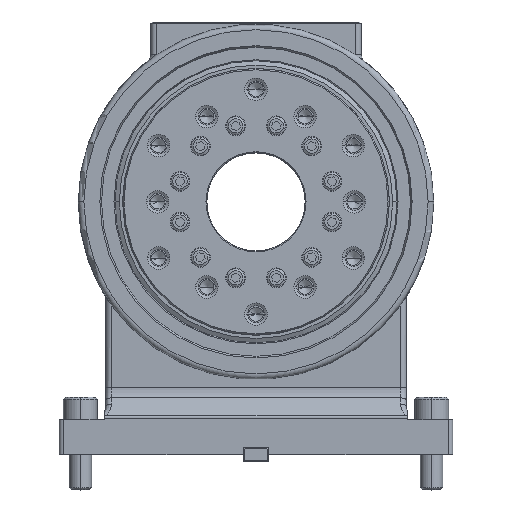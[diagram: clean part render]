
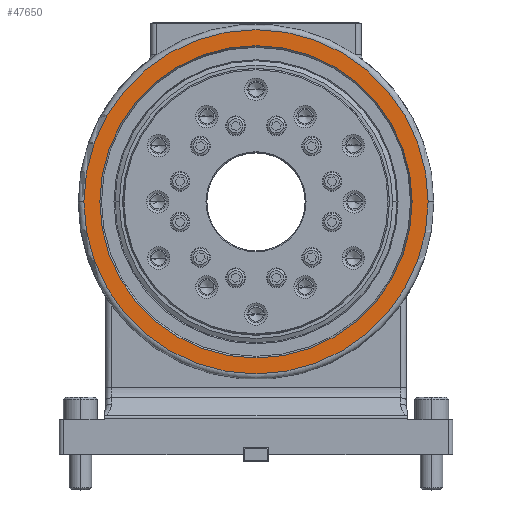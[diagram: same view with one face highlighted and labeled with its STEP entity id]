
A CAD part, top view. The second image highlights one B-rep face of the part: STEP entity #47650.
In plain terms, the highlighted planar face has unit normal (0, 0, 1).
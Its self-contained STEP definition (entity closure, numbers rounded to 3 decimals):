
#2771 = PLANE ( 'NONE',  #66839 ) ;
#3357 = AXIS2_PLACEMENT_3D ( 'NONE', #33040, #80851, #21007 ) ;
#3860 = CARTESIAN_POINT ( 'NONE',  ( -122.5, 0., -13. ) ) ;
#5313 = DIRECTION ( 'NONE',  ( 0., 0., 1. ) ) ;
#5429 = CIRCLE ( 'NONE', #42072, 122.5 ) ;
#6406 = EDGE_CURVE ( 'NONE', #12836, #34381, #56852, .T. ) ;
#7769 = EDGE_CURVE ( 'NONE', #69754, #46853, #80895, .T. ) ;
#12836 = VERTEX_POINT ( 'NONE', #3860 ) ;
#15410 = CARTESIAN_POINT ( 'NONE',  ( 0., 0., -13. ) ) ;
#15572 = DIRECTION ( 'NONE',  ( 1., 0., 0. ) ) ;
#15978 = CARTESIAN_POINT ( 'NONE',  ( 122.5, 0., -13. ) ) ;
#16963 = EDGE_CURVE ( 'NONE', #34381, #12836, #5429, .T. ) ;
#17170 = DIRECTION ( 'NONE',  ( 0., 0., 1. ) ) ;
#18854 = ORIENTED_EDGE ( 'NONE', *, *, #7769, .F. ) ;
#19286 = AXIS2_PLACEMENT_3D ( 'NONE', #19484, #40118, #15572 ) ;
#19484 = CARTESIAN_POINT ( 'NONE',  ( 0., 0., -13. ) ) ;
#21007 = DIRECTION ( 'NONE',  ( 1., 0., 0. ) ) ;
#21753 = DIRECTION ( 'NONE',  ( 0., 0., 1. ) ) ;
#33040 = CARTESIAN_POINT ( 'NONE',  ( 0., 0., -13. ) ) ;
#34381 = VERTEX_POINT ( 'NONE', #15978 ) ;
#36069 = FACE_BOUND ( 'NONE', #49523, .T. ) ;
#36486 = EDGE_CURVE ( 'NONE', #46853, #69754, #73539, .T. ) ;
#40118 = DIRECTION ( 'NONE',  ( 0., 0., 1. ) ) ;
#42072 = AXIS2_PLACEMENT_3D ( 'NONE', #54686, #17170, #60956 ) ;
#42869 = CARTESIAN_POINT ( 'NONE',  ( 0., 0., -13. ) ) ;
#44956 = ORIENTED_EDGE ( 'NONE', *, *, #16963, .T. ) ;
#46853 = VERTEX_POINT ( 'NONE', #74690 ) ;
#47650 = ADVANCED_FACE ( 'NONE', ( #52749, #36069 ), #2771, .T. ) ;
#49193 = DIRECTION ( 'NONE',  ( 1., 0., 0. ) ) ;
#49384 = CARTESIAN_POINT ( 'NONE',  ( 111.155, 0., -13. ) ) ;
#49523 = EDGE_LOOP ( 'NONE', ( #18854, #51495 ) ) ;
#51495 = ORIENTED_EDGE ( 'NONE', *, *, #36486, .F. ) ;
#52749 = FACE_OUTER_BOUND ( 'NONE', #58452, .T. ) ;
#54686 = CARTESIAN_POINT ( 'NONE',  ( 0., 0., -13. ) ) ;
#56852 = CIRCLE ( 'NONE', #3357, 122.5 ) ;
#58452 = EDGE_LOOP ( 'NONE', ( #44956, #69663 ) ) ;
#59176 = AXIS2_PLACEMENT_3D ( 'NONE', #42869, #5313, #49193 ) ;
#60956 = DIRECTION ( 'NONE',  ( 1., 0., 0. ) ) ;
#65494 = DIRECTION ( 'NONE',  ( 1., 0., 0. ) ) ;
#66839 = AXIS2_PLACEMENT_3D ( 'NONE', #15410, #21753, #65494 ) ;
#69663 = ORIENTED_EDGE ( 'NONE', *, *, #6406, .T. ) ;
#69754 = VERTEX_POINT ( 'NONE', #49384 ) ;
#73539 = CIRCLE ( 'NONE', #59176, 111.155 ) ;
#74690 = CARTESIAN_POINT ( 'NONE',  ( -111.155, 0., -13. ) ) ;
#80851 = DIRECTION ( 'NONE',  ( 0., 0., 1. ) ) ;
#80895 = CIRCLE ( 'NONE', #19286, 111.155 ) ;
